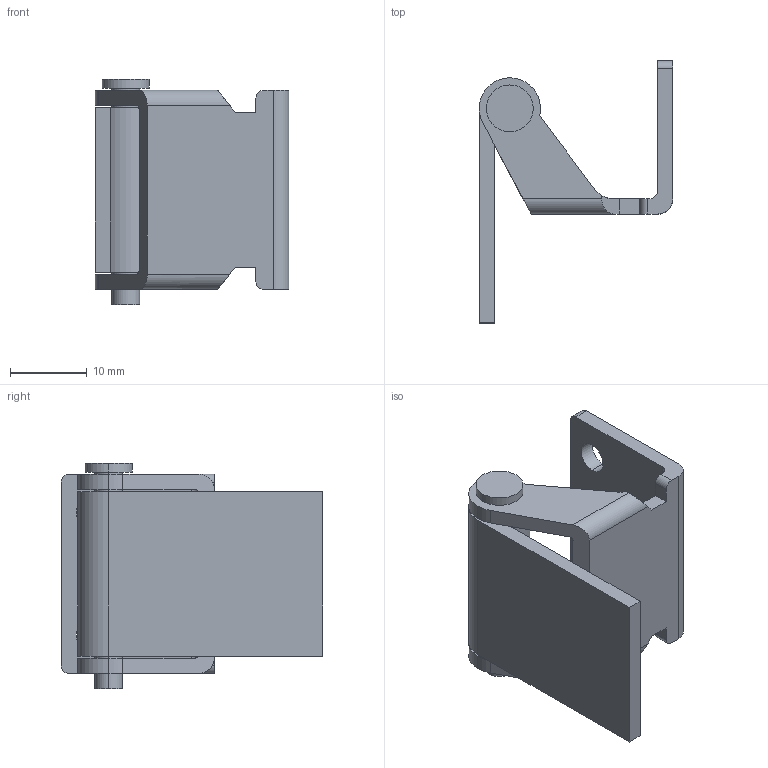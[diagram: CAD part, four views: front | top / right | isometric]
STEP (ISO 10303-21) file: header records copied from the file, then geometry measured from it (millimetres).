
FILE_DESCRIPTION (( 'STEP AP214' ), '1' );
FILE_NAME ('CL105.STEP', '2023-08-24T00:19:06', ( '' ), ( '' ), 'SwSTEP 2.0', 'SolidWorks 2019', '' );
FILE_SCHEMA (( 'AUTOMOTIVE_DESIGN' ));
Length unit declared in the file: millimetre
Products named in the file (1): CL105
Bounding box: 25.3 x 34.2 x 29.45 mm (x, y, z)
Volume: 4507.6 mm3; surface area: 5213.7 mm2
Topology: 3 solids, 3 shells, 61 faces, 162 edges, 108 vertices
Faces by surface type: cylinder 33, plane 28
Entity records: 1996 total; most frequent: CARTESIAN_POINT 370, DIRECTION 334, ORIENTED_EDGE 324, EDGE_CURVE 162, AXIS2_PLACEMENT_3D 120, VERTEX_POINT 108, LINE 94, VECTOR 94
